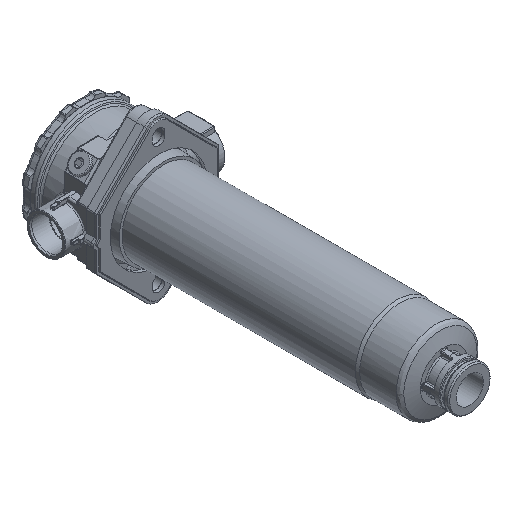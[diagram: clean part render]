
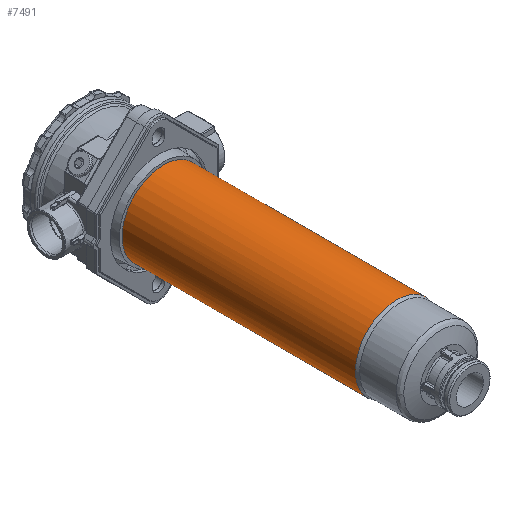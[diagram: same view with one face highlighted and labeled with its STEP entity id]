
A CAD part, isometric view. The second image highlights one B-rep face of the part: STEP entity #7491.
In plain terms, the highlighted free-form (B-spline) face has degree [2, 1] with [7, 2] control points.
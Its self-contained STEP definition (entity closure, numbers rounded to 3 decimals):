
#7412=CARTESIAN_POINT('V1747',(-54.654,
   -154.717,0.));
#7413=VERTEX_POINT('V1747',#7412);
#7419=CARTESIAN_POINT('E2878',(-54.654,
   -154.717,0.));
#7420=CARTESIAN_POINT('E2878',(-54.654,
   -154.717,-63.22));
#7421=CARTESIAN_POINT('E2878',(0.096,
   -154.717,-31.61));
#7422=CARTESIAN_POINT('E2878',(54.846,
   -154.717,0.));
#7423=CARTESIAN_POINT('E2878',(0.096,
   -154.717,31.61));
#7424=CARTESIAN_POINT('E2878',(-54.654,
   -154.717,63.22));
#7425=CARTESIAN_POINT('E2878',(-54.654,
   -154.717,0.));
#7433=(BOUNDED_CURVE()B_SPLINE_CURVE(2,(#7419,#7420,#7421,#7422,
   #7423,#7424,#7425),.CIRCULAR_ARC.,.T.,.U.)
   B_SPLINE_CURVE_WITH_KNOTS((3,2,2,3),(0.0,42.653,
   85.305,127.958),.UNSPECIFIED.)CURVE()
   GEOMETRIC_REPRESENTATION_ITEM()RATIONAL_B_SPLINE_CURVE((1.0,
   0.5,1.0,0.5,1.0,0.5,1.0)
   )REPRESENTATION_ITEM('E2878'));
#7434=EDGE_CURVE('E2878',#7413,#7413,#7433,.T.);
#7441=CARTESIAN_POINT('F1144',(-54.654,
   73.283,0.));
#7442=CARTESIAN_POINT('F1144',(-54.654,
   73.283,-63.22));
#7443=CARTESIAN_POINT('F1144',(0.096,73.283,
   -31.61));
#7444=CARTESIAN_POINT('F1144',(54.846,73.283,
   0.));
#7445=CARTESIAN_POINT('F1144',(0.096,73.283,
   31.61));
#7446=CARTESIAN_POINT('F1144',(-54.654,
   73.283,63.22));
#7447=CARTESIAN_POINT('F1144',(-54.654,
   73.283,0.));
#7448=CARTESIAN_POINT('F1144',(-54.654,
   -154.717,0.));
#7449=CARTESIAN_POINT('F1144',(-54.654,
   -154.717,-63.22));
#7450=CARTESIAN_POINT('F1144',(0.096,
   -154.717,-31.61));
#7451=CARTESIAN_POINT('F1144',(54.846,
   -154.717,0.));
#7452=CARTESIAN_POINT('F1144',(0.096,
   -154.717,31.61));
#7453=CARTESIAN_POINT('F1144',(-54.654,
   -154.717,63.22));
#7454=CARTESIAN_POINT('F1144',(-54.654,
   -154.717,0.));
#7462=(BOUNDED_SURFACE()B_SPLINE_SURFACE(2,1,((#7441,#7448),(
   #7442,#7449),(#7443,#7450),(#7444,#7451),(#7445,#7452),(
   #7446,#7453),(#7447,#7454)),.CYLINDRICAL_SURF.,.T.,.F.,.U.)
   B_SPLINE_SURFACE_WITH_KNOTS((3,2,2,3),(2,2),(0.0,
   0.555,1.109,1.664),(0.0,1.0),
   .UNSPECIFIED.)GEOMETRIC_REPRESENTATION_ITEM()
   RATIONAL_B_SPLINE_SURFACE(((1.0,1.0),(0.5,
   0.5),(1.0,1.0),(0.5,
   0.5),(1.0,1.0),(0.5,
   0.5),(1.0,1.0)))REPRESENTATION_ITEM('F1144')
   SURFACE());
#7463=CARTESIAN_POINT('V1786',(-54.654,
   52.283,0.));
#7464=VERTEX_POINT('V1786',#7463);
#7465=CARTESIAN_POINT('E2949',(-54.654,
   52.283,0.));
#7466=CARTESIAN_POINT('E2949',(-54.654,
   52.283,63.22));
#7467=CARTESIAN_POINT('E2949',(0.096,52.283,
   31.61));
#7468=CARTESIAN_POINT('E2949',(54.846,52.283,
   0.));
#7469=CARTESIAN_POINT('E2949',(0.096,52.283,
   -31.61));
#7470=CARTESIAN_POINT('E2949',(-54.654,
   52.283,-63.22));
#7471=CARTESIAN_POINT('E2949',(-54.654,
   52.283,0.));
#7479=(BOUNDED_CURVE()B_SPLINE_CURVE(2,(#7465,#7466,#7467,#7468,
   #7469,#7470,#7471),.CIRCULAR_ARC.,.T.,.U.)
   B_SPLINE_CURVE_WITH_KNOTS((3,2,2,3),(0.0,0.333,
   0.667,1.0),.UNSPECIFIED.)CURVE()
   GEOMETRIC_REPRESENTATION_ITEM()RATIONAL_B_SPLINE_CURVE((1.0,
   0.5,1.0,0.5,1.0,0.5,1.0)
   )REPRESENTATION_ITEM('E2949'));
#7480=EDGE_CURVE('E2949',#7464,#7464,#7479,.T.);
#7481=ORIENTED_EDGE('E2949',*,*,#7480,.F.);
#7482=CARTESIAN_POINT('E2950',(-54.654,
   -154.717,0.0));
#7483=CARTESIAN_POINT('E2950',(-54.654,
   52.283,0.0));
#7484=B_SPLINE_CURVE_WITH_KNOTS('E2950',1,(#7482,#7483),
   .POLYLINE_FORM.,.F.,.U.,(2,2),(0.0,0.908),
   .UNSPECIFIED.);
#7485=EDGE_CURVE('E2950',#7413,#7464,#7484,.T.);
#7486=ORIENTED_EDGE('E2950',*,*,#7485,.F.);
#7487=ORIENTED_EDGE('E2878',*,*,#7434,.F.);
#7488=ORIENTED_EDGE('E2950',*,*,#7485,.T.);
#7489=EDGE_LOOP('F1144',(#7481,#7486,#7487,#7488));
#7490=FACE_OUTER_BOUND('F1144',#7489,.T.);
#7491=ADVANCED_FACE('F1144',(#7490),#7462,.T.);
